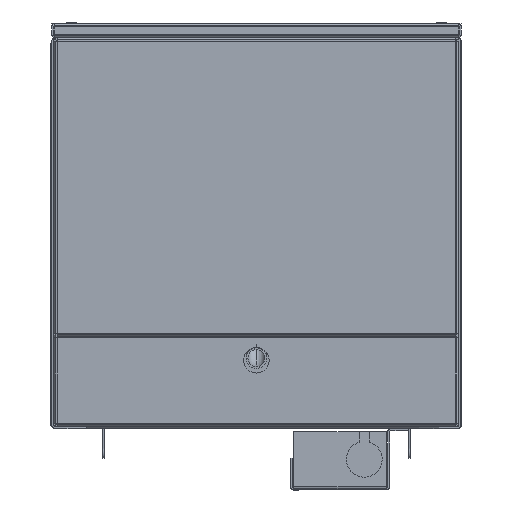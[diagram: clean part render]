
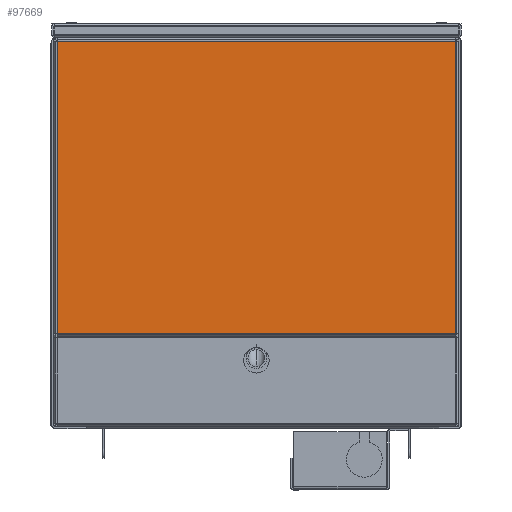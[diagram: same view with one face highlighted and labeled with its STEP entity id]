
A CAD part, front view. The second image highlights one B-rep face of the part: STEP entity #97669.
In plain terms, the highlighted planar face has unit normal (0, -1, 0).
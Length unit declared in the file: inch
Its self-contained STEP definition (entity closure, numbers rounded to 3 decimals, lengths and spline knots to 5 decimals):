
#2945 = CARTESIAN_POINT ( 'NONE',  ( 4.87, -0.048, 3.57 ) ) ;
#4410 = LINE ( 'NONE', #97839, #62904 ) ;
#5243 = ORIENTED_EDGE ( 'NONE', *, *, #96802, .F. ) ;
#6380 = DIRECTION ( 'NONE',  ( -1., 0., 0. ) ) ;
#7349 = VERTEX_POINT ( 'NONE', #94944 ) ;
#10589 = VERTEX_POINT ( 'NONE', #83660 ) ;
#11364 = LINE ( 'NONE', #67250, #51966 ) ;
#11485 = ORIENTED_EDGE ( 'NONE', *, *, #48878, .F. ) ;
#12338 = CARTESIAN_POINT ( 'NONE',  ( -4.87, -0.048, -3.572 ) ) ;
#15540 = PLANE ( 'NONE',  #34415 ) ;
#20075 = DIRECTION ( 'NONE',  ( 1., 0., 0. ) ) ;
#20972 = VERTEX_POINT ( 'NONE', #57269 ) ;
#21073 = EDGE_CURVE ( 'NONE', #7349, #59957, #89205, .T. ) ;
#23371 = CARTESIAN_POINT ( 'NONE',  ( -4.87, -0.048, 3.572 ) ) ;
#23388 = VERTEX_POINT ( 'NONE', #78830 ) ;
#23615 = EDGE_CURVE ( 'NONE', #7349, #10589, #4410, .T. ) ;
#24150 = CARTESIAN_POINT ( 'NONE',  ( 4.872, -0.048, 3.57 ) ) ;
#24387 = ORIENTED_EDGE ( 'NONE', *, *, #90735, .F. ) ;
#26241 = VERTEX_POINT ( 'NONE', #46580 ) ;
#26782 = DIRECTION ( 'NONE',  ( 0., 0., -1. ) ) ;
#26916 = CARTESIAN_POINT ( 'NONE',  ( 4.87, -0.048, 3.572 ) ) ;
#28295 = DIRECTION ( 'NONE',  ( 0., 0., 1. ) ) ;
#28740 = DIRECTION ( 'NONE',  ( 1., 0., 0. ) ) ;
#29987 = DIRECTION ( 'NONE',  ( 0., 0., -1. ) ) ;
#30104 = EDGE_CURVE ( 'NONE', #55561, #54702, #79968, .T. ) ;
#30930 = DIRECTION ( 'NONE',  ( 0., 0., 1. ) ) ;
#31636 = LINE ( 'NONE', #74386, #69830 ) ;
#31894 = ORIENTED_EDGE ( 'NONE', *, *, #37618, .F. ) ;
#32828 = CARTESIAN_POINT ( 'NONE',  ( 4.87, -0.048, 3.57 ) ) ;
#33482 = VERTEX_POINT ( 'NONE', #93727 ) ;
#34331 = VECTOR ( 'NONE', #93259, 39.37008 ) ;
#34415 = AXIS2_PLACEMENT_3D ( 'NONE', #45945, #76613, #30930 ) ;
#34657 = CARTESIAN_POINT ( 'NONE',  ( -4.872, -0.048, 3.57 ) ) ;
#34870 = EDGE_LOOP ( 'NONE', ( #88805, #80676, #55055, #59024, #91316, #70610, #88255, #31894, #5243, #97144, #24387, #11485 ) ) ;
#35397 = VECTOR ( 'NONE', #48641, 39.37008 ) ;
#36302 = DIRECTION ( 'NONE',  ( 0., 0., 1. ) ) ;
#36462 = VECTOR ( 'NONE', #26782, 39.37008 ) ;
#37618 = EDGE_CURVE ( 'NONE', #23388, #54702, #50116, .T. ) ;
#40908 = CARTESIAN_POINT ( 'NONE',  ( -4.87, -0.048, -3.57 ) ) ;
#40973 = EDGE_CURVE ( 'NONE', #56721, #26241, #56747, .T. ) ;
#42595 = LINE ( 'NONE', #12338, #80764 ) ;
#43999 = CARTESIAN_POINT ( 'NONE',  ( -4.87, -0.048, 3.65 ) ) ;
#44939 = EDGE_CURVE ( 'NONE', #10589, #33482, #81004, .T. ) ;
#45355 = VECTOR ( 'NONE', #36302, 39.37008 ) ;
#45945 = CARTESIAN_POINT ( 'NONE',  ( -4.87, -0.048, -3.57 ) ) ;
#46580 = CARTESIAN_POINT ( 'NONE',  ( -4.872, -0.048, -3.57 ) ) ;
#47187 = DIRECTION ( 'NONE',  ( -1., 0., 0. ) ) ;
#48272 = VERTEX_POINT ( 'NONE', #86972 ) ;
#48587 = VECTOR ( 'NONE', #28295, 39.37008 ) ;
#48641 = DIRECTION ( 'NONE',  ( 1., 0., 0. ) ) ;
#48878 = EDGE_CURVE ( 'NONE', #20972, #48272, #97573, .T. ) ;
#50116 = LINE ( 'NONE', #43999, #45355 ) ;
#51892 = DIRECTION ( 'NONE',  ( -1., 0., 0. ) ) ;
#51966 = VECTOR ( 'NONE', #51892, 39.37008 ) ;
#54702 = VERTEX_POINT ( 'NONE', #23371 ) ;
#55055 = ORIENTED_EDGE ( 'NONE', *, *, #23615, .F. ) ;
#55561 = VERTEX_POINT ( 'NONE', #26916 ) ;
#56721 = VERTEX_POINT ( 'NONE', #34657 ) ;
#56747 = LINE ( 'NONE', #72487, #36462 ) ;
#57269 = CARTESIAN_POINT ( 'NONE',  ( -4.87, -0.048, -3.572 ) ) ;
#57885 = VERTEX_POINT ( 'NONE', #32828 ) ;
#59024 = ORIENTED_EDGE ( 'NONE', *, *, #21073, .T. ) ;
#59630 = VECTOR ( 'NONE', #47187, 39.37008 ) ;
#59957 = VERTEX_POINT ( 'NONE', #24150 ) ;
#60716 = VECTOR ( 'NONE', #29987, 39.37008 ) ;
#62904 = VECTOR ( 'NONE', #6380, 39.37008 ) ;
#66275 = CARTESIAN_POINT ( 'NONE',  ( 4.872, -0.048, -3.57 ) ) ;
#67250 = CARTESIAN_POINT ( 'NONE',  ( -4.95, -0.048, -3.57 ) ) ;
#69630 = FACE_OUTER_BOUND ( 'NONE', #34870, .T. ) ;
#69830 = VECTOR ( 'NONE', #28740, 39.37008 ) ;
#69871 = CARTESIAN_POINT ( 'NONE',  ( 4.87, -0.048, 3.572 ) ) ;
#70574 = CARTESIAN_POINT ( 'NONE',  ( 4.87, -0.048, 3.65 ) ) ;
#70610 = ORIENTED_EDGE ( 'NONE', *, *, #82153, .F. ) ;
#72487 = CARTESIAN_POINT ( 'NONE',  ( -4.872, -0.048, 3.57 ) ) ;
#74386 = CARTESIAN_POINT ( 'NONE',  ( -4.87, -0.048, 3.57 ) ) ;
#75640 = CARTESIAN_POINT ( 'NONE',  ( 4.87, -0.048, -3.65 ) ) ;
#76500 = EDGE_CURVE ( 'NONE', #20972, #33482, #42595, .T. ) ;
#76613 = DIRECTION ( 'NONE',  ( 0., 1., 0. ) ) ;
#77256 = VECTOR ( 'NONE', #94289, 39.37008 ) ;
#77309 = LINE ( 'NONE', #70574, #34331 ) ;
#78830 = CARTESIAN_POINT ( 'NONE',  ( -4.87, -0.048, 3.57 ) ) ;
#79968 = LINE ( 'NONE', #69871, #59630 ) ;
#80676 = ORIENTED_EDGE ( 'NONE', *, *, #44939, .F. ) ;
#80764 = VECTOR ( 'NONE', #20075, 39.37008 ) ;
#81004 = LINE ( 'NONE', #75640, #60716 ) ;
#82153 = EDGE_CURVE ( 'NONE', #55561, #57885, #77309, .T. ) ;
#83490 = EDGE_CURVE ( 'NONE', #57885, #59957, #98698, .T. ) ;
#83660 = CARTESIAN_POINT ( 'NONE',  ( 4.87, -0.048, -3.57 ) ) ;
#86972 = CARTESIAN_POINT ( 'NONE',  ( -4.87, -0.048, -3.57 ) ) ;
#88255 = ORIENTED_EDGE ( 'NONE', *, *, #30104, .T. ) ;
#88805 = ORIENTED_EDGE ( 'NONE', *, *, #76500, .T. ) ;
#89205 = LINE ( 'NONE', #66275, #48587 ) ;
#90735 = EDGE_CURVE ( 'NONE', #48272, #26241, #11364, .T. ) ;
#91316 = ORIENTED_EDGE ( 'NONE', *, *, #83490, .F. ) ;
#93259 = DIRECTION ( 'NONE',  ( 0., 0., -1. ) ) ;
#93727 = CARTESIAN_POINT ( 'NONE',  ( 4.87, -0.048, -3.572 ) ) ;
#94289 = DIRECTION ( 'NONE',  ( 0., 0., 1. ) ) ;
#94944 = CARTESIAN_POINT ( 'NONE',  ( 4.872, -0.048, -3.57 ) ) ;
#96802 = EDGE_CURVE ( 'NONE', #56721, #23388, #31636, .T. ) ;
#97144 = ORIENTED_EDGE ( 'NONE', *, *, #40973, .T. ) ;
#97573 = LINE ( 'NONE', #40908, #77256 ) ;
#97669 = ADVANCED_FACE ( 'NONE', ( #69630 ), #15540, .F. ) ;
#97839 = CARTESIAN_POINT ( 'NONE',  ( 4.87, -0.048, -3.57 ) ) ;
#98698 = LINE ( 'NONE', #2945, #35397 ) ;
